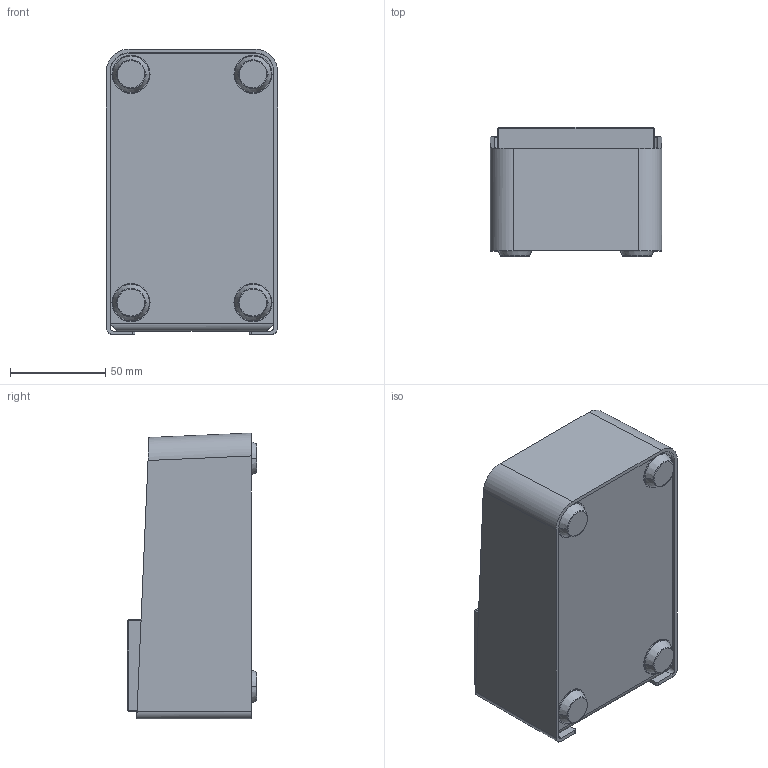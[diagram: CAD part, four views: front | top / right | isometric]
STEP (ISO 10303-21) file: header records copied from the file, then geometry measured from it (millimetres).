
FILE_DESCRIPTION (( 'STEP AP214' ), '1' );
FILE_NAME ('101016.STEP', '2025-06-30T09:43:46', ( '' ), ( '' ), 'SwSTEP 2.0', 'SolidWorks 2022', '' );
FILE_SCHEMA (( 'AUTOMOTIVE_DESIGN' ));
Length unit declared in the file: millimetre
Products named in the file (9): 100443; 101017; 101016; 101023; 101019; 101018; 101020; 101024; 101022
Assembly tree (17 placements, depth 3):
  101016
    101017
      101019
      101018
    100443  x4
    101022
      101023
      101024  x4
    101020  x4
Bounding box: 90 x 68 x 150 mm (x, y, z)
Volume: 187436.2 mm3; surface area: 107487.4 mm2
Topology: 15 solids, 15 shells, 315 faces, 733 edges, 466 vertices
Faces by surface type: plane 155, cylinder 67, bspline 61, cone 32
Entity records: 7527 total; most frequent: CARTESIAN_POINT 2071, ORIENTED_EDGE 1114, DIRECTION 941, EDGE_CURVE 557, VECTOR 365, LINE 365, VERTEX_POINT 358, AXIS2_PLACEMENT_3D 288
